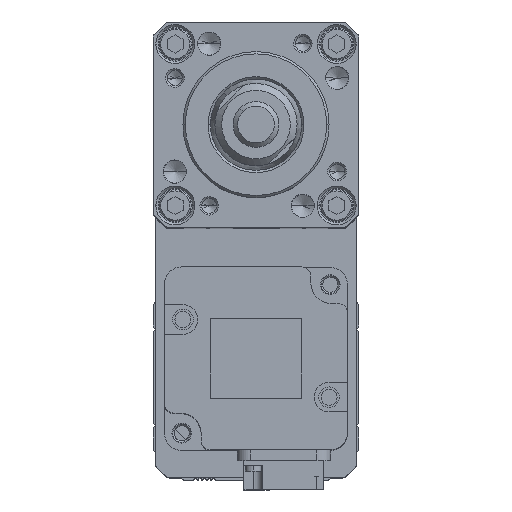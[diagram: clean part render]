
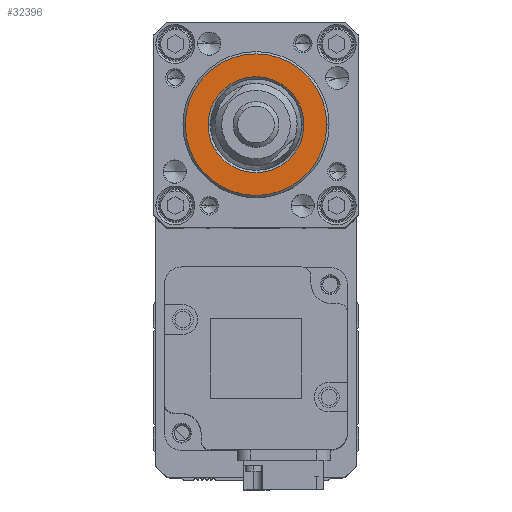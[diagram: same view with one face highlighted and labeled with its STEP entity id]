
A CAD part, top view. The second image highlights one B-rep face of the part: STEP entity #32396.
In plain terms, the highlighted planar face has unit normal (0, 0, 1).
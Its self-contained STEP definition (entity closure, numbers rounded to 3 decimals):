
#400 = AXIS2_PLACEMENT_3D ( 'NONE', #30927, #15885, #858 ) ;
#761 = FACE_BOUND ( 'NONE', #30211, .T. ) ;
#858 = DIRECTION ( 'NONE',  ( 1., 0., 0. ) ) ;
#2772 = ORIENTED_EDGE ( 'NONE', *, *, #15794, .T. ) ;
#3108 = DIRECTION ( 'NONE',  ( 1., 0., 0. ) ) ;
#3685 = CIRCLE ( 'NONE', #19340, 15.5 ) ;
#4083 = CARTESIAN_POINT ( 'NONE',  ( 0., 0., 157. ) ) ;
#4097 = ORIENTED_EDGE ( 'NONE', *, *, #26405, .T. ) ;
#4212 = ORIENTED_EDGE ( 'NONE', *, *, #17109, .T. ) ;
#4226 = ORIENTED_EDGE ( 'NONE', *, *, #19004, .T. ) ;
#6580 = DIRECTION ( 'NONE',  ( 1., 0., 0. ) ) ;
#6879 = DIRECTION ( 'NONE',  ( 0., 0., 1. ) ) ;
#8164 = FACE_OUTER_BOUND ( 'NONE', #14419, .T. ) ;
#8662 = VERTEX_POINT ( 'NONE', #13547 ) ;
#9975 = VERTEX_POINT ( 'NONE', #13588 ) ;
#11154 = AXIS2_PLACEMENT_3D ( 'NONE', #4083, #21644, #6580 ) ;
#11646 = VERTEX_POINT ( 'NONE', #19855 ) ;
#12162 = CARTESIAN_POINT ( 'NONE',  ( 0., 0., 157. ) ) ;
#12340 = VERTEX_POINT ( 'NONE', #22145 ) ;
#13547 = CARTESIAN_POINT ( 'NONE',  ( -10.5, 0., 157. ) ) ;
#13588 = CARTESIAN_POINT ( 'NONE',  ( 15.5, 0., 157. ) ) ;
#14419 = EDGE_LOOP ( 'NONE', ( #4097, #4212 ) ) ;
#14710 = DIRECTION ( 'NONE',  ( 1., 0., 0. ) ) ;
#15612 = CARTESIAN_POINT ( 'NONE',  ( 0., 0., 157. ) ) ;
#15770 = AXIS2_PLACEMENT_3D ( 'NONE', #21934, #6879, #24486 ) ;
#15794 = EDGE_CURVE ( 'NONE', #12340, #8662, #22187, .T. ) ;
#15885 = DIRECTION ( 'NONE',  ( 0., 0., -1. ) ) ;
#16993 = CIRCLE ( 'NONE', #11154, 10.5 ) ;
#17109 = EDGE_CURVE ( 'NONE', #9975, #11646, #31143, .T. ) ;
#18149 = DIRECTION ( 'NONE',  ( 0., 0., 1. ) ) ;
#19004 = EDGE_CURVE ( 'NONE', #8662, #12340, #16993, .T. ) ;
#19340 = AXIS2_PLACEMENT_3D ( 'NONE', #12162, #29792, #14710 ) ;
#19855 = CARTESIAN_POINT ( 'NONE',  ( -15.5, 0., 157. ) ) ;
#21644 = DIRECTION ( 'NONE',  ( 0., 0., -1. ) ) ;
#21934 = CARTESIAN_POINT ( 'NONE',  ( 0., 0., 157. ) ) ;
#22145 = CARTESIAN_POINT ( 'NONE',  ( 10.5, 0., 157. ) ) ;
#22187 = CIRCLE ( 'NONE', #400, 10.5 ) ;
#23730 = AXIS2_PLACEMENT_3D ( 'NONE', #15612, #18149, #3108 ) ;
#24486 = DIRECTION ( 'NONE',  ( 1., 0., 0. ) ) ;
#26405 = EDGE_CURVE ( 'NONE', #11646, #9975, #3685, .T. ) ;
#29792 = DIRECTION ( 'NONE',  ( 0., 0., 1. ) ) ;
#30211 = EDGE_LOOP ( 'NONE', ( #2772, #4226 ) ) ;
#30661 = PLANE ( 'NONE',  #23730 ) ;
#30927 = CARTESIAN_POINT ( 'NONE',  ( 0., 0., 157. ) ) ;
#31143 = CIRCLE ( 'NONE', #15770, 15.5 ) ;
#32396 = ADVANCED_FACE ( 'NONE', ( #761, #8164 ), #30661, .T. ) ;
